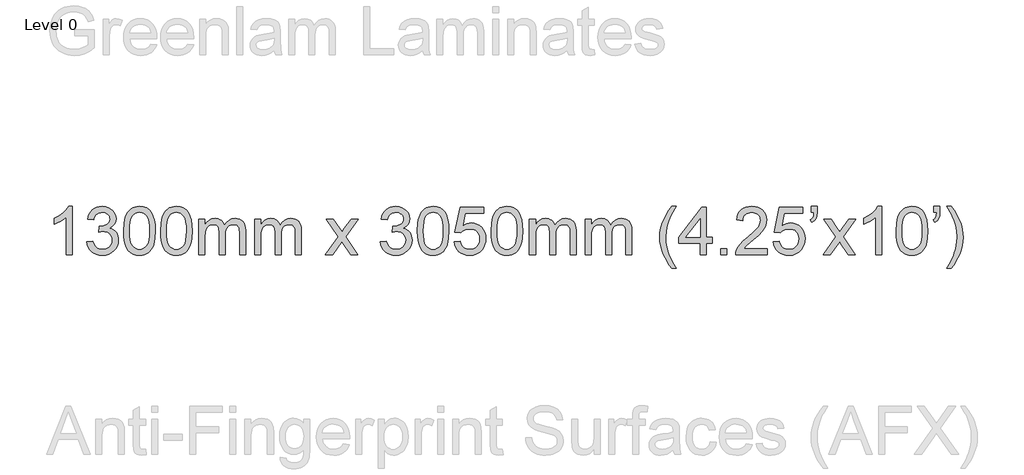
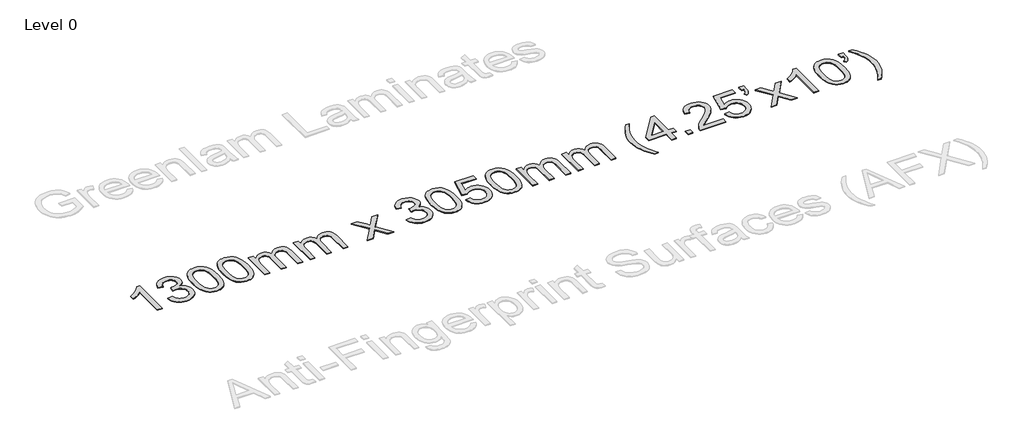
# One storey, part 9 of 10: 1 proxy.
"""IFC4 building model written with IfcOpenShell, lengths in millimetres."""

from ifc_helpers import new_model, si_unit, origin, origin_with_axes, place, context, project, spatial, polyline, outline, extrude, element, save

model = new_model("IFC4")

# Units and contexts
model_context = context("Model", 3, world=origin())
ifc_project = project(units=[si_unit("LENGTHUNIT", "METRE", prefix="MILLI")], contexts=[model_context])

# Site, building, storey
site = spatial("IfcSite", under=ifc_project)
building = spatial("IfcBuilding", under=site)
storey = spatial("IfcBuildingStorey", under=building, Name="Level 0", Elevation=0.0)

# Proxy
placement = place(None, origin())
element("IfcBuildingElementProxy", 1, Name="600mm Arial", ObjectType="600mm Arial", at=placement, inside=storey, context=model_context, shape_type="SweptSolid", body=[
    extrude(outline(polyline([(-10623.1831502, 260.1279527), (-10698.5253828, 260.1279527), (-10698.5253828, 729.8396841), (-10729.9792934, 704.4006441), (-10769.8944899, 678.9983924), (-10811.7962491, 656.796714), (-10849.209848, 640.9593941), (-10849.209848, 712.1813483), (-10790.0360291, 744.3710229), (-10738.7716731, 782.6675386), (-10698.3598359, 823.3920755), (-10671.7435735, 862.8658136), (-10623.1831502, 862.8658136), (-10623.1831502, 260.1279527)])), origin_with_axes(), (0.0, 0.0, 1.0), 10.0),
    extrude(outline(polyline([(-10444.2453477, 420.230197), (-10368.9031151, 429.647976), (-10352.0357256, 382.3015633), (-10340.6635735, 364.3949072), (-10327.3324497, 350.3326179), (-10311.7388516, 339.7100253), (-10293.5792766, 332.1224591), (-10272.8537247, 327.5699194), (-10249.5621959, 326.0524062), (-10222.2653518, 328.1401365), (-10197.9115638, 334.4033275), (-10176.5008316, 344.8419791), (-10158.0331555, 359.4560914), (-10143.1615258, 377.1512153), (-10132.5389332, 396.8329021), (-10126.1653776, 418.5011516), (-10124.0408591, 442.1559639), (-10126.1469835, 464.6841376), (-10132.4653568, 485.1797632), (-10142.9959789, 503.6428409), (-10157.7388499, 520.0733705), (-10175.7282794, 533.5608441), (-10195.9985774, 543.1947539), (-10218.5497437, 548.9750997), (-10243.3817784, 550.9018817), (-10267.1837434, 548.8417425), (-10296.2096329, 542.661325), (-10287.8219234, 618.0035576), (-10275.7553939, 617.1206408), (-10230.6162731, 622.5285061), (-10190.2596183, 638.7521021), (-10173.6497462, 651.0209666), (-10161.7855518, 666.1960989), (-10154.6670352, 684.277499), (-10152.2941963, 705.2651668), (-10154.0140447, 722.3027017), (-10159.1735897, 737.8043293), (-10167.7728313, 751.7700496), (-10179.8117696, 764.1998625), (-10194.5638376, 774.4039893), (-10211.3024684, 781.6926513), (-10250.7394183, 787.523581), (-10271.3959923, 786.052053), (-10290.2499445, 781.637469), (-10307.301275, 774.2798291), (-10322.5499837, 763.9791333), (-10335.6189916, 750.7353814), (-10346.1312196, 734.5485737), (-10354.0866678, 715.4187099), (-10359.485336, 693.3457902), (-10434.8275686, 702.7635693), (-10425.8972332, 738.7332313), (-10412.6442843, 770.4170682), (-10395.068722, 797.8150798), (-10373.1705463, 820.9272661), (-10347.6395358, 839.2753806), (-10319.1654694, 852.3811767), (-10287.748347, 860.2446544), (-10253.3881686, 862.8658136), (-10206.0233617, 857.6970715), (-10162.5213158, 842.1908454), (-10125.8434809, 817.7266928), (-10098.951307, 785.684171), (-10082.4517996, 748.7672128), (-10076.9519637, 709.6797508), (-10082.1758881, 673.2594333), (-10097.8476611, 640.2236301), (-10123.7465535, 612.0806575), (-10159.6518363, 590.3388315), (-10134.5438901, 582.4845509), (-10112.4893645, 571.2825442), (-10093.4882594, 556.7328113), (-10077.5405749, 538.8353522), (-10064.9222225, 518.0316254), (-10055.9091136, 494.7630892), (-10050.5012483, 469.0297436), (-10048.6986265, 440.8315887), (-10052.3038701, 402.6086494), (-10063.1196007, 367.4023425), (-10081.1458185, 335.2126679), (-10106.3825234, 306.0396257), (-10137.1282611, 281.8329904), (-10171.6815775, 264.5425366), (-10210.0424725, 254.1682643), (-10252.2109462, 250.7101736), (-10290.3235209, 253.6624266), (-10325.0515813, 262.5191856), (-10356.3951273, 277.2804507), (-10384.3541589, 297.9462218), (-10407.797439, 323.3024883), (-10425.5937306, 352.1352397), (-10437.7430335, 384.4444759), (-10444.2453477, 420.230197)])), origin_with_axes(), (0.0, 0.0, 1.0), 10.0),
    extrude(outline(polyline([(-9982.774173, 556.6408408), (-9977.2375489, 653.117894), (-9970.3167689, 694.0309704), (-9960.6276769, 730.0604133), (-9948.2116595, 761.5005283), (-9933.1101036, 788.645621), (-9915.3230092, 811.4956915), (-9894.8503761, 830.0507396), (-9871.6232267, 844.4073345), (-9845.5725829, 854.6620451), (-9816.6984448, 860.8148714), (-9785.0008124, 862.8658136), (-9738.5741046, 858.0097712), (-9697.0034391, 843.4416442), (-9662.2385906, 819.7316496), (-9636.2293335, 787.4500046), (-9616.584435, 746.8726205), (-9600.912662, 698.2754089), (-9590.6487543, 636.5632042), (-9587.2274518, 556.6408408), (-9592.7088935, 460.7156105), (-9599.5606956, 419.9404899), (-9609.1532187, 383.9570322), (-9621.472667, 352.5031217), (-9636.505245, 325.3166422), (-9654.2509528, 302.3975939), (-9674.7097902, 283.7459768), (-9697.9645308, 269.2928129), (-9724.0979481, 258.9691244), (-9753.1100419, 252.7749113), (-9785.0008124, 250.7101736), (-9826.4979014, 254.297023), (-9863.2861009, 265.0575714), (-9895.3654109, 282.9918187), (-9922.7358314, 308.0997648), (-9949.0026058, 353.487206), (-9967.7645876, 410.0398657), (-9979.0217766, 477.757744), (-9982.774173, 556.6408408)]), holes=[polyline([(-9907.4319404, 556.7879936), (-9905.2246484, 491.2912029), (-9898.6027725, 438.2748088), (-9887.5663126, 397.7388115), (-9872.1152688, 369.6832108), (-9853.4268635, 350.5947338), (-9832.6783189, 336.9601074), (-9809.8696352, 328.7793315), (-9785.0008124, 326.0524062), (-9760.1319895, 328.7885285), (-9737.3233058, 336.9968956), (-9716.5747613, 350.6775073), (-9697.8863559, 369.8303636), (-9682.4353121, 397.9319495), (-9671.3988523, 438.4587498), (-9664.7769763, 491.4107645), (-9662.5696844, 556.7879936), (-9664.7033999, 620.5511404), (-9671.1045467, 672.6340339), (-9681.7731245, 713.036674), (-9696.7091335, 741.7590608), (-9715.0848392, 761.7810383), (-9736.072507, 776.0824509), (-9759.672137, 784.6632984), (-9785.8837292, 787.523581), (-9810.6237933, 785.0035893), (-9833.0462009, 777.4436143), (-9853.150952, 764.843656), (-9870.9380464, 747.2037143), (-9886.904125, 715.9337447), (-9898.3084669, 673.774468), (-9905.151072, 620.7258843), (-9907.4319404, 556.7879936)])]), origin_with_axes(), (0.0, 0.0, 1.0), 10.0),
    extrude(outline(polyline([(-9521.3029982, 556.6408408), (-9515.7663742, 653.117894), (-9508.8455942, 694.0309704), (-9499.1565021, 730.0604133), (-9486.7404848, 761.5005283), (-9471.6389289, 788.645621), (-9453.8518344, 811.4956915), (-9433.3792014, 830.0507396), (-9410.1520519, 844.4073345), (-9384.1014081, 854.6620451), (-9355.22727, 860.8148714), (-9323.5296376, 862.8658136), (-9277.1029298, 858.0097712), (-9235.5322644, 843.4416442), (-9200.7674158, 819.7316496), (-9174.7581588, 787.4500046), (-9155.1132602, 746.8726205), (-9139.4414872, 698.2754089), (-9129.1775796, 636.5632042), (-9125.756277, 556.6408408), (-9131.2377187, 460.7156105), (-9138.0895209, 419.9404899), (-9147.6820439, 383.9570322), (-9160.0014922, 352.5031217), (-9175.0340703, 325.3166422), (-9192.779778, 302.3975939), (-9213.2386155, 283.7459768), (-9236.4933561, 269.2928129), (-9262.6267733, 258.9691244), (-9291.6388672, 252.7749113), (-9323.5296376, 250.7101736), (-9365.0267267, 254.297023), (-9401.8149262, 265.0575714), (-9433.8942362, 282.9918187), (-9461.2646566, 308.0997648), (-9487.5314311, 353.487206), (-9506.2934128, 410.0398657), (-9517.5506019, 477.757744), (-9521.3029982, 556.6408408)]), holes=[polyline([(-9445.9607656, 556.7879936), (-9443.7534736, 491.2912029), (-9437.1315977, 438.2748088), (-9426.0951379, 397.7388115), (-9410.6440941, 369.6832108), (-9391.9556887, 350.5947338), (-9371.2071442, 336.9601074), (-9348.3984605, 328.7793315), (-9323.5296376, 326.0524062), (-9298.6608147, 328.7885285), (-9275.852131, 336.9968956), (-9255.1035865, 350.6775073), (-9236.4151812, 369.8303636), (-9220.9641374, 397.9319495), (-9209.9276775, 438.4587498), (-9203.3058016, 491.4107645), (-9201.0985096, 556.7879936), (-9203.2322252, 620.5511404), (-9209.6333719, 672.6340339), (-9220.3019498, 713.036674), (-9235.2379588, 741.7590608), (-9253.6136644, 761.7810383), (-9274.6013323, 776.0824509), (-9298.2009622, 784.6632984), (-9324.4125544, 787.523581), (-9349.1526186, 785.0035893), (-9371.5750262, 777.4436143), (-9391.6797772, 764.843656), (-9409.4668717, 747.2037143), (-9425.4329503, 715.9337447), (-9436.8372921, 673.774468), (-9443.6798972, 620.7258843), (-9445.9607656, 556.7879936)])]), origin_with_axes(), (0.0, 0.0, 1.0), 10.0),
    extrude(outline(polyline([(-9040.9962653, 260.1279527), (-9040.9962653, 702.7635693), (-8965.6540327, 702.7635693), (-8965.6540327, 629.9229342), (-8942.9925018, 663.3818017), (-8913.8562478, 689.5933938), (-8879.238552, 706.5343597), (-8840.132696, 712.1813483), (-8798.2309367, 706.4239951), (-8780.397857, 699.2273036), (-8764.6433105, 689.1519354), (-8739.5537585, 661.5056035), (-8723.1462215, 624.6254335), (-8695.6838305, 662.9311462), (-8664.3586787, 690.2923696), (-8629.1707658, 706.7091037), (-8590.120092, 712.1813483), (-8559.958367, 709.9050785), (-8533.4846589, 703.076269), (-8510.6989678, 691.6949197), (-8491.6012937, 675.7610308), (-8476.5043363, 655.0906612), (-8465.7207954, 629.4998699), (-8459.2506708, 598.988657), (-8457.0939626, 563.5570223), (-8457.0939626, 260.1279527), (-8532.4361952, 260.1279527), (-8532.4361952, 531.1834067), (-8534.1836347, 568.7625525), (-8539.4259531, 594.0912279), (-8549.2484024, 611.436864), (-8564.7362344, 625.0668919), (-8584.6570444, 633.8960598), (-8607.7784278, 636.8391157), (-8629.1293791, 634.9537205), (-8648.5949352, 629.2975348), (-8666.175096, 619.8705587), (-8681.8698616, 606.6727921), (-8694.7779211, 589.317959), (-8703.9979636, 567.4197832), (-8709.5299891, 540.9782648), (-8711.3739976, 509.9934038), (-8711.3739976, 260.1279527), (-8786.7162303, 260.1279527), (-8786.7162303, 539.5711162), (-8791.0756319, 582.1718512), (-8796.5248839, 598.8920879), (-8804.1538368, 612.5589041), (-8814.2659932, 623.1814967), (-8827.1648556, 630.7690628), (-8842.8504242, 635.3216025), (-8861.3226989, 636.8391157), (-8890.3485883, 632.7924138), (-8917.0936093, 620.6523079), (-8939.1665291, 600.7131038), (-8954.1761145, 573.269107), (-8962.7845531, 535.1933205), (-8965.6540327, 483.3587473), (-8965.6540327, 260.1279527), (-9040.9962653, 260.1279527)])), origin_with_axes(), (0.0, 0.0, 1.0), 10.0),
    extrude(outline(polyline([(-8344.0806137, 260.1279527), (-8344.0806137, 702.7635693), (-8268.738381, 702.7635693), (-8268.738381, 629.9229342), (-8246.0768501, 663.3818017), (-8216.9405961, 689.5933938), (-8182.3229004, 706.5343597), (-8143.2170443, 712.1813483), (-8101.315285, 706.4239951), (-8083.4822053, 699.2273036), (-8067.7276589, 689.1519354), (-8042.6381068, 661.5056035), (-8026.2305698, 624.6254335), (-7998.7681789, 662.9311462), (-7967.443027, 690.2923696), (-7932.2551142, 706.7091037), (-7893.2044404, 712.1813483), (-7863.0427153, 709.9050785), (-7836.5690072, 703.076269), (-7813.7833161, 691.6949197), (-7794.6856421, 675.7610308), (-7779.5886847, 655.0906612), (-7768.8051437, 629.4998699), (-7762.3350191, 598.988657), (-7760.1783109, 563.5570223), (-7760.1783109, 260.1279527), (-7835.5205435, 260.1279527), (-7835.5205435, 531.1834067), (-7837.267983, 568.7625525), (-7842.5103014, 594.0912279), (-7852.3327507, 611.436864), (-7867.8205827, 625.0668919), (-7887.7413927, 633.8960598), (-7910.8627761, 636.8391157), (-7932.2137274, 634.9537205), (-7951.6792835, 629.2975348), (-7969.2594443, 619.8705587), (-7984.95421, 606.6727921), (-7997.8622695, 589.317959), (-8007.082312, 567.4197832), (-8012.6143375, 540.9782648), (-8014.458346, 509.9934038), (-8014.458346, 260.1279527), (-8089.8005786, 260.1279527), (-8089.8005786, 539.5711162), (-8094.1599802, 582.1718512), (-8099.6092323, 598.8920879), (-8107.2381852, 612.5589041), (-8117.3503415, 623.1814967), (-8130.249204, 630.7690628), (-8145.9347725, 635.3216025), (-8164.4070472, 636.8391157), (-8193.4329366, 632.7924138), (-8220.1779577, 620.6523079), (-8242.2508774, 600.7131038), (-8257.2604628, 573.269107), (-8265.8689015, 535.1933205), (-8268.738381, 483.3587473), (-8268.738381, 260.1279527), (-8344.0806137, 260.1279527)])), origin_with_axes(), (0.0, 0.0, 1.0), 10.0),
    extrude(outline(polyline([(-7458.8093805, 260.1279527), (-7297.8242194, 482.6229834), (-7449.3916014, 702.7635693), (-7358.7454778, 702.7635693), (-7285.6105371, 596.8135547), (-7251.471088, 546.7816033), (-7221.8933756, 587.6900812), (-7138.6048919, 702.7635693), (-7047.9587682, 702.7635693), (-7207.1780958, 482.6229834), (-7053.8448802, 260.1279527), (-7144.4910038, 260.1279527), (-7236.7558082, 393.8898461), (-7253.67838, 418.3172106), (-7368.1632569, 260.1279527), (-7458.8093805, 260.1279527)])), origin_with_axes(), (0.0, 0.0, 1.0), 10.0),
    extrude(outline(polyline([(-6771.3115079, 420.230197), (-6695.9692753, 429.647976), (-6679.1018858, 382.3015633), (-6667.7297336, 364.3949072), (-6654.3986098, 350.3326179), (-6638.8050117, 339.7100253), (-6620.6454368, 332.1224591), (-6599.9198848, 327.5699194), (-6576.628356, 326.0524062), (-6549.331512, 328.1401365), (-6524.9777239, 334.4033275), (-6503.5669918, 344.8419791), (-6485.0993156, 359.4560914), (-6470.227686, 377.1512153), (-6459.6050934, 396.8329021), (-6453.2315378, 418.5011516), (-6451.1070193, 442.1559639), (-6453.2131437, 464.6841376), (-6459.531517, 485.1797632), (-6470.0621391, 503.6428409), (-6484.80501, 520.0733705), (-6502.7944396, 533.5608441), (-6523.0647375, 543.1947539), (-6545.6159038, 548.9750997), (-6570.4479385, 550.9018817), (-6594.2499036, 548.8417425), (-6623.275793, 542.661325), (-6614.8880835, 618.0035576), (-6602.8215541, 617.1206408), (-6557.6824333, 622.5285061), (-6517.3257784, 638.7521021), (-6500.7159063, 651.0209666), (-6488.851712, 666.1960989), (-6481.7331954, 684.277499), (-6479.3603565, 705.2651668), (-6481.0802048, 722.3027017), (-6486.2397498, 737.8043293), (-6494.8389915, 751.7700496), (-6506.8779297, 764.1998625), (-6521.6299977, 774.4039893), (-6538.3686285, 781.6926513), (-6577.8055784, 787.523581), (-6598.4621524, 786.052053), (-6617.3161047, 781.637469), (-6634.3674352, 774.2798291), (-6649.6161439, 763.9791333), (-6662.6851517, 750.7353814), (-6673.1973798, 734.5485737), (-6681.1528279, 715.4187099), (-6686.5514962, 693.3457902), (-6761.8937288, 702.7635693), (-6752.9633934, 738.7332313), (-6739.7104445, 770.4170682), (-6722.1348822, 797.8150798), (-6700.2367064, 820.9272661), (-6674.7056959, 839.2753806), (-6646.2316295, 852.3811767), (-6614.8145071, 860.2446544), (-6580.4543288, 862.8658136), (-6533.0895219, 857.6970715), (-6489.587476, 842.1908454), (-6452.9096411, 817.7266928), (-6426.0174672, 785.684171), (-6409.5179597, 748.7672128), (-6404.0181239, 709.6797508), (-6409.2420482, 673.2594333), (-6424.9138212, 640.2236301), (-6450.8127137, 612.0806575), (-6486.7179964, 590.3388315), (-6461.6100502, 582.4845509), (-6439.5555246, 571.2825442), (-6420.5544196, 556.7328113), (-6404.6067351, 538.8353522), (-6391.9883826, 518.0316254), (-6382.9752738, 494.7630892), (-6377.5674084, 469.0297436), (-6375.7647867, 440.8315887), (-6379.3700302, 402.6086494), (-6390.1857609, 367.4023425), (-6408.2119786, 335.2126679), (-6433.4486835, 306.0396257), (-6464.1944213, 281.8329904), (-6498.7477376, 264.5425366), (-6537.1086327, 254.1682643), (-6579.2771064, 250.7101736), (-6617.3896811, 253.6624266), (-6652.1177414, 262.5191856), (-6683.4612874, 277.2804507), (-6711.4203191, 297.9462218), (-6734.8635992, 323.3024883), (-6752.6598907, 352.1352397), (-6764.8091936, 384.4444759), (-6771.3115079, 420.230197)])), origin_with_axes(), (0.0, 0.0, 1.0), 10.0),
    extrude(outline(polyline([(-6309.8403331, 556.6408408), (-6304.3037091, 653.117894), (-6297.3829291, 694.0309704), (-6287.693837, 730.0604133), (-6275.2778197, 761.5005283), (-6260.1762638, 788.645621), (-6242.3891693, 811.4956915), (-6221.9165363, 830.0507396), (-6198.6893868, 844.4073345), (-6172.638743, 854.6620451), (-6143.7646049, 860.8148714), (-6112.0669725, 862.8658136), (-6065.6402647, 858.0097712), (-6024.0695993, 843.4416442), (-5989.3047507, 819.7316496), (-5963.2954937, 787.4500046), (-5943.6505951, 746.8726205), (-5927.9788221, 698.2754089), (-5917.7149145, 636.5632042), (-5914.2936119, 556.6408408), (-5919.7750536, 460.7156105), (-5926.6268558, 419.9404899), (-5936.2193788, 383.9570322), (-5948.5388271, 352.5031217), (-5963.5714052, 325.3166422), (-5981.3171129, 302.3975939), (-6001.7759504, 283.7459768), (-6025.030691, 269.2928129), (-6051.1641082, 258.9691244), (-6080.1762021, 252.7749113), (-6112.0669725, 250.7101736), (-6153.5640616, 254.297023), (-6190.3522611, 265.0575714), (-6222.4315711, 282.9918187), (-6249.8019915, 308.0997648), (-6276.068766, 353.487206), (-6294.8307477, 410.0398657), (-6306.0879368, 477.757744), (-6309.8403331, 556.6408408)]), holes=[polyline([(-6234.4981005, 556.7879936), (-6232.2908085, 491.2912029), (-6225.6689326, 438.2748088), (-6214.6324728, 397.7388115), (-6199.181429, 369.6832108), (-6180.4930236, 350.5947338), (-6159.7444791, 336.9601074), (-6136.9357954, 328.7793315), (-6112.0669725, 326.0524062), (-6087.1981496, 328.7885285), (-6064.3894659, 336.9968956), (-6043.6409214, 350.6775073), (-6024.9525161, 369.8303636), (-6009.5014723, 397.9319495), (-5998.4650124, 438.4587498), (-5991.8431365, 491.4107645), (-5989.6358445, 556.7879936), (-5991.7695601, 620.5511404), (-5998.1707068, 672.6340339), (-6008.8392847, 713.036674), (-6023.7752937, 741.7590608), (-6042.1509993, 761.7810383), (-6063.1386672, 776.0824509), (-6086.7382972, 784.6632984), (-6112.9498893, 787.523581), (-6137.6899535, 785.0035893), (-6160.1123611, 777.4436143), (-6180.2171121, 764.843656), (-6198.0042066, 747.2037143), (-6213.9702852, 715.9337447), (-6225.374627, 673.774468), (-6232.2172321, 620.7258843), (-6234.4981005, 556.7879936)])]), origin_with_axes(), (0.0, 0.0, 1.0), 10.0),
    extrude(outline(polyline([(-5848.3691584, 420.230197), (-5773.0269258, 429.647976), (-5767.3983312, 405.4275452), (-5759.1945627, 384.4168847), (-5748.4156203, 366.6159947), (-5735.0615039, 352.0248751), (-5719.1598046, 340.6619199), (-5700.7381137, 332.5455234), (-5679.7964311, 327.6756855), (-5656.3347569, 326.0524062), (-5627.6399613, 328.310282), (-5602.32968, 335.0839092), (-5580.4039131, 346.3732879), (-5561.8626605, 362.1784181), (-5547.1197896, 381.7175506), (-5536.5891675, 404.2089361), (-5530.2707942, 429.6525746), (-5528.1646698, 458.0484661), (-5530.137437, 484.8854576), (-5536.0557386, 508.742605), (-5545.9195746, 529.6199082), (-5559.728945, 547.5173673), (-5577.529835, 561.8739622), (-5599.3682299, 572.1286728), (-5625.2441298, 578.2814991), (-5655.1575345, 580.3324413), (-5691.7066107, 577.0582915), (-5721.3027172, 567.2358422), (-5744.9391354, 552.1894686), (-5763.6091467, 533.2435459), (-5838.9513793, 542.661325), (-5773.0269258, 853.4480345), (-5481.0757744, 853.4480345), (-5481.0757744, 778.1058019), (-5712.1056674, 778.1058019), (-5744.3321301, 612.1174457), (-5717.7434589, 631.173733), (-5690.5109942, 644.7853668), (-5662.6347361, 652.9523471), (-5634.1146844, 655.6746739), (-5597.4230539, 652.2993566), (-5563.7204646, 642.1734047), (-5533.0069165, 625.2968181), (-5505.2824097, 601.669597), (-5482.3311717, 572.7356781), (-5465.9374303, 539.9389982), (-5456.1011854, 503.2795574), (-5452.8224372, 462.7573556), (-5455.7746902, 423.7250759), (-5464.6314492, 387.415123), (-5479.3927143, 353.8274968), (-5500.0584853, 322.9621974), (-5531.3652431, 291.351937), (-5567.8959253, 268.7731796), (-5609.6505317, 255.2259251), (-5656.6290625, 250.7101736), (-5695.5095909, 253.6118428), (-5730.6285258, 262.3168505), (-5761.9858674, 276.8251967), (-5789.5816155, 297.1368814), (-5812.5420506, 322.240229), (-5829.9934527, 351.1235642), (-5841.935822, 383.7868868), (-5848.3691584, 420.230197)])), origin_with_axes(), (0.0, 0.0, 1.0), 10.0),
    extrude(outline(polyline([(-5386.8979836, 556.6408408), (-5381.3613596, 653.117894), (-5374.4405796, 694.0309704), (-5364.7514875, 730.0604133), (-5352.3354702, 761.5005283), (-5337.2339143, 788.645621), (-5319.4468198, 811.4956915), (-5298.9741868, 830.0507396), (-5275.7470373, 844.4073345), (-5249.6963935, 854.6620451), (-5220.8222554, 860.8148714), (-5189.124623, 862.8658136), (-5142.6979152, 858.0097712), (-5101.1272498, 843.4416442), (-5066.3624012, 819.7316496), (-5040.3531442, 787.4500046), (-5020.7082456, 746.8726205), (-5005.0364726, 698.2754089), (-4994.772565, 636.5632042), (-4991.3512624, 556.6408408), (-4996.8327041, 460.7156105), (-5003.6845063, 419.9404899), (-5013.2770293, 383.9570322), (-5025.5964776, 352.5031217), (-5040.6290557, 325.3166422), (-5058.3747634, 302.3975939), (-5078.8336009, 283.7459768), (-5102.0883415, 269.2928129), (-5128.2217587, 258.9691244), (-5157.2338526, 252.7749113), (-5189.124623, 250.7101736), (-5230.6217121, 254.297023), (-5267.4099116, 265.0575714), (-5299.4892216, 282.9918187), (-5326.859642, 308.0997648), (-5353.1264165, 353.487206), (-5371.8883982, 410.0398657), (-5383.1455873, 477.757744), (-5386.8979836, 556.6408408)]), holes=[polyline([(-5311.555751, 556.7879936), (-5309.348459, 491.2912029), (-5302.7265831, 438.2748088), (-5291.6901233, 397.7388115), (-5276.2390795, 369.6832108), (-5257.5506741, 350.5947338), (-5236.8021296, 336.9601074), (-5213.9934459, 328.7793315), (-5189.124623, 326.0524062), (-5164.2558001, 328.7885285), (-5141.4471164, 336.9968956), (-5120.6985719, 350.6775073), (-5102.0101666, 369.8303636), (-5086.5591228, 397.9319495), (-5075.5226629, 438.4587498), (-5068.900787, 491.4107645), (-5066.693495, 556.7879936), (-5068.8272106, 620.5511404), (-5075.2283573, 672.6340339), (-5085.8969352, 713.036674), (-5100.8329442, 741.7590608), (-5119.2086498, 761.7810383), (-5140.1963177, 776.0824509), (-5163.7959477, 784.6632984), (-5190.0075398, 787.523581), (-5214.747604, 785.0035893), (-5237.1700116, 777.4436143), (-5257.2747626, 764.843656), (-5275.0618571, 747.2037143), (-5291.0279357, 715.9337447), (-5302.4322775, 673.774468), (-5309.2748826, 620.7258843), (-5311.555751, 556.7879936)])]), origin_with_axes(), (0.0, 0.0, 1.0), 10.0),
    extrude(outline(polyline([(-4906.5912507, 260.1279527), (-4906.5912507, 702.7635693), (-4831.2490181, 702.7635693), (-4831.2490181, 629.9229342), (-4808.5874872, 663.3818017), (-4779.4512332, 689.5933938), (-4744.8335374, 706.5343597), (-4705.7276814, 712.1813483), (-4663.8259221, 706.4239951), (-4645.9928424, 699.2273036), (-4630.2382959, 689.1519354), (-4605.1487439, 661.5056035), (-4588.7412069, 624.6254335), (-4561.278816, 662.9311462), (-4529.9536641, 690.2923696), (-4494.7657512, 706.7091037), (-4455.7150774, 712.1813483), (-4425.5533524, 709.9050785), (-4399.0796443, 703.076269), (-4376.2939532, 691.6949197), (-4357.1962791, 675.7610308), (-4342.0993217, 655.0906612), (-4331.3157808, 629.4998699), (-4324.8456562, 598.988657), (-4322.688948, 563.5570223), (-4322.688948, 260.1279527), (-4398.0311806, 260.1279527), (-4398.0311806, 531.1834067), (-4399.7786201, 568.7625525), (-4405.0209385, 594.0912279), (-4414.8433878, 611.436864), (-4430.3312198, 625.0668919), (-4450.2520298, 633.8960598), (-4473.3734132, 636.8391157), (-4494.7243645, 634.9537205), (-4514.1899206, 629.2975348), (-4531.7700814, 619.8705587), (-4547.464847, 606.6727921), (-4560.3729065, 589.317959), (-4569.592949, 567.4197832), (-4575.1249745, 540.9782648), (-4576.968983, 509.9934038), (-4576.968983, 260.1279527), (-4652.3112157, 260.1279527), (-4652.3112157, 539.5711162), (-4656.6706173, 582.1718512), (-4662.1198694, 598.8920879), (-4669.7488222, 612.5589041), (-4679.8609786, 623.1814967), (-4692.759841, 630.7690628), (-4708.4454096, 635.3216025), (-4726.9176843, 636.8391157), (-4755.9435737, 632.7924138), (-4782.6885947, 620.6523079), (-4804.7615145, 600.7131038), (-4819.7710999, 573.269107), (-4828.3795385, 535.1933205), (-4831.2490181, 483.3587473), (-4831.2490181, 260.1279527), (-4906.5912507, 260.1279527)])), origin_with_axes(), (0.0, 0.0, 1.0), 10.0),
    extrude(outline(polyline([(-4209.6755991, 260.1279527), (-4209.6755991, 702.7635693), (-4134.3333664, 702.7635693), (-4134.3333664, 629.9229342), (-4111.6718355, 663.3818017), (-4082.5355815, 689.5933938), (-4047.9178858, 706.5343597), (-4008.8120297, 712.1813483), (-3966.9102704, 706.4239951), (-3949.0771907, 699.2273036), (-3933.3226443, 689.1519354), (-3908.2330922, 661.5056035), (-3891.8255552, 624.6254335), (-3864.3631643, 662.9311462), (-3833.0380124, 690.2923696), (-3797.8500996, 706.7091037), (-3758.7994258, 712.1813483), (-3728.6377007, 709.9050785), (-3702.1639926, 703.076269), (-3679.3783015, 691.6949197), (-3660.2806275, 675.7610308), (-3645.1836701, 655.0906612), (-3634.4001291, 629.4998699), (-3627.9300045, 598.988657), (-3625.7732963, 563.5570223), (-3625.7732963, 260.1279527), (-3701.1155289, 260.1279527), (-3701.1155289, 531.1834067), (-3702.8629684, 568.7625525), (-3708.1052868, 594.0912279), (-3717.9277361, 611.436864), (-3733.4155681, 625.0668919), (-3753.3363781, 633.8960598), (-3776.4577615, 636.8391157), (-3797.8087128, 634.9537205), (-3817.2742689, 629.2975348), (-3834.8544297, 619.8705587), (-3850.5491954, 606.6727921), (-3863.4572549, 589.317959), (-3872.6772974, 567.4197832), (-3878.2093229, 540.9782648), (-3880.0533314, 509.9934038), (-3880.0533314, 260.1279527), (-3955.395564, 260.1279527), (-3955.395564, 539.5711162), (-3959.7549656, 582.1718512), (-3965.2042177, 598.8920879), (-3972.8331706, 612.5589041), (-3982.9453269, 623.1814967), (-3995.8441894, 630.7690628), (-4011.5297579, 635.3216025), (-4030.0020326, 636.8391157), (-4059.027922, 632.7924138), (-4085.7729431, 620.6523079), (-4107.8458628, 600.7131038), (-4122.8554482, 573.269107), (-4131.4638869, 535.1933205), (-4134.3333664, 483.3587473), (-4134.3333664, 260.1279527), (-4209.6755991, 260.1279527)])), origin_with_axes(), (0.0, 0.0, 1.0), 10.0),
    extrude(outline(polyline([(-3126.6310053, 90.6079293), (-3157.0456492, 129.9621057), (-3185.0138779, 172.5352496), (-3210.5356913, 218.327361), (-3233.6110895, 267.3384398), (-3252.7317562, 318.4188548), (-3266.3893752, 370.4189748), (-3274.5839467, 423.3387998), (-3277.3154705, 477.1783298), (-3275.2737254, 524.4971515), (-3269.1484902, 570.8042976), (-3258.9397648, 616.0997683), (-3244.6475493, 660.3835634), (-3222.9241175, 711.1696729), (-3196.0135496, 761.8454177), (-3163.9158455, 812.4107979), (-3126.6310053, 862.8658136), (-3070.1243308, 862.8658136), (-3114.4541112, 791.2391891), (-3140.6105211, 743.5248943), (-3164.6700036, 686.8710671), (-3182.9905269, 627.862795), (-3197.2275601, 552.4837742), (-3201.9732379, 476.7368714), (-3199.9130987, 428.438564), (-3193.7326812, 380.1494536), (-3183.4319853, 331.8695403), (-3169.0110111, 283.598824), (-3150.4697585, 235.3373047), (-3127.8082276, 187.0849825), (-3101.0264184, 138.8418574), (-3070.1243308, 90.6079293), (-3126.6310053, 90.6079293)])), origin_with_axes(), (0.0, 0.0, 1.0), 10.0),
    extrude(outline(polyline([(-2768.7554004, 260.1279527), (-2768.7554004, 401.3946388), (-3041.8709936, 401.3946388), (-3041.8709936, 476.7368714), (-2749.9198422, 853.4480345), (-2693.4131677, 853.4480345), (-2693.4131677, 476.7368714), (-2618.0709351, 476.7368714), (-2618.0709351, 401.3946388), (-2693.4131677, 401.3946388), (-2693.4131677, 260.1279527), (-2768.7554004, 260.1279527)]), holes=[polyline([(-2768.7554004, 476.7368714), (-2768.7554004, 709.532598), (-2949.1647308, 476.7368714), (-2768.7554004, 476.7368714)])]), origin_with_axes(), (0.0, 0.0, 1.0), 10.0),
    extrude(outline(polyline([(-2514.4753653, 260.1279527), (-2514.4753653, 335.4701853), (-2439.1331327, 335.4701853), (-2439.1331327, 260.1279527), (-2514.4753653, 260.1279527)])), origin_with_axes(), (0.0, 0.0, 1.0), 10.0),
    extrude(outline(polyline([(-1930.5730625, 335.4701853), (-1930.5730625, 260.1279527), (-2326.1197838, 260.1279527), (-2324.4643148, 286.6522445), (-2318.0263799, 312.0728904), (-2299.4483391, 352.6686686), (-2272.2618597, 392.0504361), (-2232.9352744, 433.2716137), (-2177.9369161, 479.3856218), (-2096.6349952, 551.6008574), (-2047.8538426, 604.9069586), (-2033.6260064, 626.6855727), (-2023.4632663, 648.1698812), (-2017.3656223, 669.3598841), (-2015.3330742, 690.2555814), (-2017.2506591, 709.9142755), (-2023.0034138, 727.98188), (-2032.5913383, 744.4583949), (-2046.0144326, 759.3438201), (-2062.5277357, 771.6724655), (-2081.3862865, 780.4786407), (-2102.590085, 785.7623459), (-2126.1391312, 787.523581), (-2150.9481732, 785.8037326), (-2173.1360561, 780.6441876), (-2192.7027797, 772.044946), (-2209.6483441, 760.0060077), (-2223.3565469, 744.932043), (-2233.2111859, 727.2277219), (-2239.2122609, 706.8930447), (-2241.3597721, 683.9280111), (-2316.7020047, 693.3457902), (-2310.222683, 732.2401141), (-2298.4366636, 766.2232134), (-2281.3439464, 795.2950881), (-2258.9445314, 819.4557381), (-2231.7534535, 838.4476461), (-2200.2857473, 852.0132947), (-2164.5414129, 860.1526839), (-2124.5204504, 862.8658136), (-2084.1408029, 859.8491812), (-2048.2033305, 850.7992841), (-2016.7080332, 835.7161223), (-1989.654911, 814.5996958), (-1967.9268806, 789.013503), (-1952.406859, 760.5210425), (-1943.094846, 729.1223142), (-1939.9908416, 694.8173182), (-1943.3385678, 658.7832767), (-1953.3817462, 623.3746347), (-1971.2056289, 587.3589874), (-1997.8954677, 549.5039301), (-2040.4410204, 504.309627), (-2105.832045, 446.2762422), (-2192.5050431, 373.8034892), (-2226.4973395, 335.4701853), (-1930.5730625, 335.4701853)])), origin_with_axes(), (0.0, 0.0, 1.0), 10.0),
    extrude(outline(polyline([(-1855.2308299, 420.230197), (-1779.8885973, 429.647976), (-1774.2600028, 405.4275452), (-1766.0562343, 384.4168847), (-1755.2772918, 366.6159947), (-1741.9231754, 352.0248751), (-1726.0214762, 340.6619199), (-1707.5997853, 332.5455234), (-1686.6581027, 327.6756855), (-1663.1964284, 326.0524062), (-1634.5016328, 328.310282), (-1609.1913516, 335.0839092), (-1587.2655846, 346.3732879), (-1568.7243321, 362.1784181), (-1553.9814611, 381.7175506), (-1543.450839, 404.2089361), (-1537.1324657, 429.6525746), (-1535.0263413, 458.0484661), (-1536.9991085, 484.8854576), (-1542.9174101, 508.742605), (-1552.7812461, 529.6199082), (-1566.5906165, 547.5173673), (-1584.3915066, 561.8739622), (-1606.2299015, 572.1286728), (-1632.1058013, 578.2814991), (-1662.0192061, 580.3324413), (-1698.5682823, 577.0582915), (-1728.1643888, 567.2358422), (-1751.800807, 552.1894686), (-1770.4708182, 533.2435459), (-1845.8130509, 542.661325), (-1779.8885973, 853.4480345), (-1487.9374459, 853.4480345), (-1487.9374459, 778.1058019), (-1718.9673389, 778.1058019), (-1751.1938017, 612.1174457), (-1724.6051305, 631.173733), (-1697.3726658, 644.7853668), (-1669.4964076, 652.9523471), (-1640.9763559, 655.6746739), (-1604.2847254, 652.2993566), (-1570.5821362, 642.1734047), (-1539.8685881, 625.2968181), (-1512.1440812, 601.669597), (-1489.1928433, 572.7356781), (-1472.7991018, 539.9389982), (-1462.962857, 503.2795574), (-1459.6841087, 462.7573556), (-1462.6363617, 423.7250759), (-1471.4931208, 387.415123), (-1486.2543858, 353.8274968), (-1506.9201569, 322.9621974), (-1538.2269147, 291.351937), (-1574.7575968, 268.7731796), (-1616.5122033, 255.2259251), (-1663.490734, 250.7101736), (-1702.3712624, 253.6118428), (-1737.4901974, 262.3168505), (-1768.8475389, 276.8251967), (-1796.4432871, 297.1368814), (-1819.4037221, 322.240229), (-1836.8551243, 351.1235642), (-1848.7974935, 383.7868868), (-1855.2308299, 420.230197)])), origin_with_axes(), (0.0, 0.0, 1.0), 10.0),
    extrude(outline(polyline([(-1384.3418761, 787.523581), (-1384.3418761, 862.8658136), (-1308.9996435, 862.8658136), (-1308.9996435, 787.523581), (-1312.0898523, 742.7155539), (-1321.3604785, 712.4756539), (-1343.3598218, 684.8845043), (-1374.924097, 665.092453), (-1393.7596552, 694.0815542), (-1374.004392, 707.3437001), (-1360.0616644, 726.5287462), (-1351.4532257, 752.8507029), (-1347.7008294, 787.523581), (-1384.3418761, 787.523581)])), origin_with_axes(), (0.0, 0.0, 1.0), 10.0),
    extrude(outline(polyline([(-1233.6574109, 260.1279527), (-1072.6722498, 482.6229834), (-1224.2396318, 702.7635693), (-1133.5935082, 702.7635693), (-1060.4585675, 596.8135547), (-1026.3191184, 546.7816033), (-996.741406, 587.6900812), (-913.4529223, 702.7635693), (-822.8067987, 702.7635693), (-982.0261262, 482.6229834), (-828.6929106, 260.1279527), (-919.3390342, 260.1279527), (-1011.6038386, 393.8898461), (-1028.5264104, 418.3172106), (-1143.0112873, 260.1279527), (-1233.6574109, 260.1279527)])), origin_with_axes(), (0.0, 0.0, 1.0), 10.0),
    extrude(outline(polyline([(-499.0706429, 260.1279527), (-574.4128755, 260.1279527), (-574.4128755, 729.8396841), (-605.8667861, 704.4006441), (-645.7819826, 678.9983924), (-687.6837418, 656.796714), (-725.0973407, 640.9593941), (-725.0973407, 712.1813483), (-665.9235218, 744.3710229), (-614.6591658, 782.6675386), (-574.2473286, 823.3920755), (-547.6310663, 862.8658136), (-499.0706429, 862.8658136), (-499.0706429, 260.1279527)])), origin_with_axes(), (0.0, 0.0, 1.0), 10.0),
    extrude(outline(polyline([(-320.1328405, 556.6408408), (-314.5962164, 653.117894), (-307.6754364, 694.0309704), (-297.9863443, 730.0604133), (-285.570327, 761.5005283), (-270.4687711, 788.645621), (-252.6816766, 811.4956915), (-232.2090436, 830.0507396), (-208.9818941, 844.4073345), (-182.9312504, 854.6620451), (-154.0571123, 860.8148714), (-122.3594798, 862.8658136), (-75.9327721, 858.0097712), (-34.3621066, 843.4416442), (0.4027419, 819.7316496), (26.411999, 787.4500046), (46.0568975, 746.8726205), (61.7286705, 698.2754089), (71.9925782, 636.5632042), (75.4138808, 556.6408408), (69.932439, 460.7156105), (63.0806369, 419.9404899), (53.4881138, 383.9570322), (41.1686655, 352.5031217), (26.1360875, 325.3166422), (8.3903798, 302.3975939), (-12.0684577, 283.7459768), (-35.3231983, 269.2928129), (-61.4566155, 258.9691244), (-90.4687094, 252.7749113), (-122.3594798, 250.7101736), (-163.8565689, 254.297023), (-200.6447684, 265.0575714), (-232.7240784, 282.9918187), (-260.0944988, 308.0997648), (-286.3612733, 353.487206), (-305.1232551, 410.0398657), (-316.3804441, 477.757744), (-320.1328405, 556.6408408)]), holes=[polyline([(-244.7906078, 556.7879936), (-242.5833159, 491.2912029), (-235.96144, 438.2748088), (-224.9249801, 397.7388115), (-209.4739363, 369.6832108), (-190.785531, 350.5947338), (-170.0369864, 336.9601074), (-147.2283027, 328.7793315), (-122.3594798, 326.0524062), (-97.490657, 328.7885285), (-74.6819733, 336.9968956), (-53.9334287, 350.6775073), (-35.2450234, 369.8303636), (-19.7939796, 397.9319495), (-8.7575197, 438.4587498), (-2.1356438, 491.4107645), (0.0716481, 556.7879936), (-2.0620674, 620.5511404), (-8.4632141, 672.6340339), (-19.131792, 713.036674), (-34.067801, 741.7590608), (-52.4435067, 761.7810383), (-73.4311745, 776.0824509), (-97.0308045, 784.6632984), (-123.2423966, 787.523581), (-147.9824608, 785.0035893), (-170.4048684, 777.4436143), (-190.5096195, 764.843656), (-208.2967139, 747.2037143), (-224.2627925, 715.9337447), (-235.6671344, 673.774468), (-242.5097395, 620.7258843), (-244.7906078, 556.7879936)])]), origin_with_axes(), (0.0, 0.0, 1.0), 10.0),
    extrude(outline(polyline([(150.7561134, 787.523581), (150.7561134, 862.8658136), (226.098346, 862.8658136), (226.098346, 787.523581), (223.0081372, 742.7155539), (213.7375109, 712.4756539), (191.7381676, 684.8845043), (160.1738924, 665.092453), (141.3383343, 694.0815542), (161.0935974, 707.3437001), (175.0363251, 726.5287462), (183.6447637, 752.8507029), (187.3971601, 787.523581), (150.7561134, 787.523581)])), origin_with_axes(), (0.0, 0.0, 1.0), 10.0),
    extrude(outline(polyline([(367.3650321, 90.6079293), (310.8583577, 90.6079293), (341.7604453, 138.8418574), (368.5422545, 187.0849825), (391.2037854, 235.3373047), (409.745038, 283.598824), (424.1660122, 331.8695403), (434.4667081, 380.1494536), (440.6471256, 428.438564), (442.7072647, 476.7368714), (437.961587, 551.9319512), (423.7245538, 626.5384199), (405.7351242, 685.6570565), (381.7860063, 742.3476719), (355.5192319, 790.5770015), (310.8583577, 862.8658136), (367.3650321, 862.8658136), (404.6498723, 812.4107979), (436.7475764, 761.8454177), (463.6581444, 711.1696729), (485.3815762, 660.3835634), (499.6737917, 616.0997683), (509.8825171, 570.8042976), (516.0077523, 524.4971515), (518.0494974, 477.1783298), (515.304178, 423.3387998), (507.0682198, 370.4189748), (493.3416229, 318.4188548), (474.1243871, 267.3384398), (450.9800111, 218.327361), (425.4719933, 172.5352496), (397.6003336, 129.9621057), (367.3650321, 90.6079293)])), origin_with_axes(), (0.0, 0.0, 1.0), 10.0),
])

save(model, "model.ifc")
